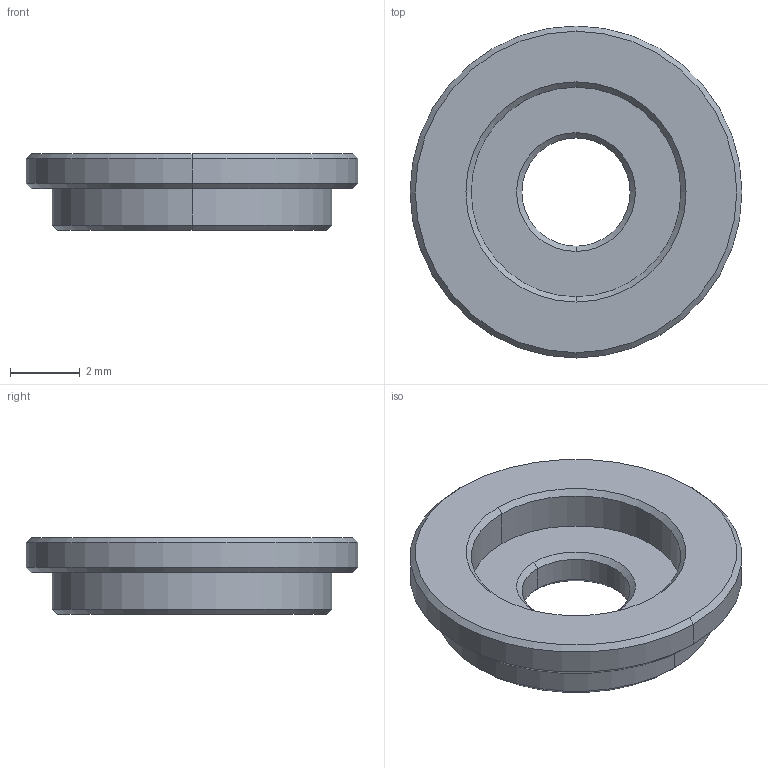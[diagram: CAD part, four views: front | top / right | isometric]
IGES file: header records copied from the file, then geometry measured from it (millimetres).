
Start section:  PTC IGES file: rx64_cap_bearing.igs
Global section: file name: rx64_cap_bearing.igs; native system: Pro/ENGINEER by Parametric Technology Corporation; preprocessor: 2006170; author: bono; organization: Unknown; date: 20061206.132221; units: millimetre
Bounding box: 9.5 x 9.5 x 2.2 mm (x, y, z)
Surface area: 208.2 mm2 (no closed solid volume)
Topology: 0 solids, 0 shells, 24 faces, 96 edges, 96 vertices
Faces by surface type: revolution 20, bspline 4
